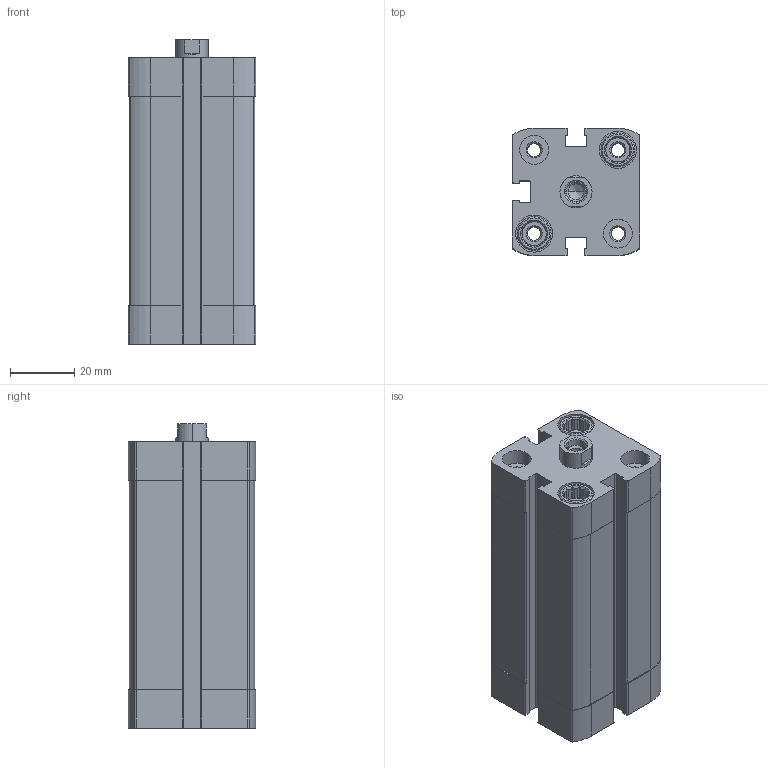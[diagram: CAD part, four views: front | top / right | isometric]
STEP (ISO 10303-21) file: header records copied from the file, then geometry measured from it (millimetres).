
FILE_DESCRIPTION (( 'STEP AP203' ), '1' );
FILE_NAME ('CCN25-50F.STEP', '2017-03-28T17:25:37', ( '' ), ( '' ), 'SwSTEP 2.0', 'SolidWorks 2016', '' );
FILE_SCHEMA (( 'CONFIG_CONTROL_DESIGN' ));
Length unit declared in the file: millimetre
Products named in the file (3): CCN-50---(Z); CCN-50_(KS); CCN25-50F
Assembly tree (2 placements, depth 2):
  CCN25-50F
    CCN-50---(Z)
    CCN-50_(KS)
Bounding box: 39.5 x 39.5 x 94.5 mm (x, y, z)
Volume: 96360.3 mm3; surface area: 37475.7 mm2
Topology: 2 solids, 2 shells, 407 faces, 1082 edges, 709 vertices
Faces by surface type: plane 231, cylinder 134, cone 42
Entity records: 13141 total; most frequent: CARTESIAN_POINT 2495, DIRECTION 2220, ORIENTED_EDGE 2160, EDGE_CURVE 1080, AXIS2_PLACEMENT_3D 826, VERTEX_POINT 709, LINE 568, VECTOR 568
